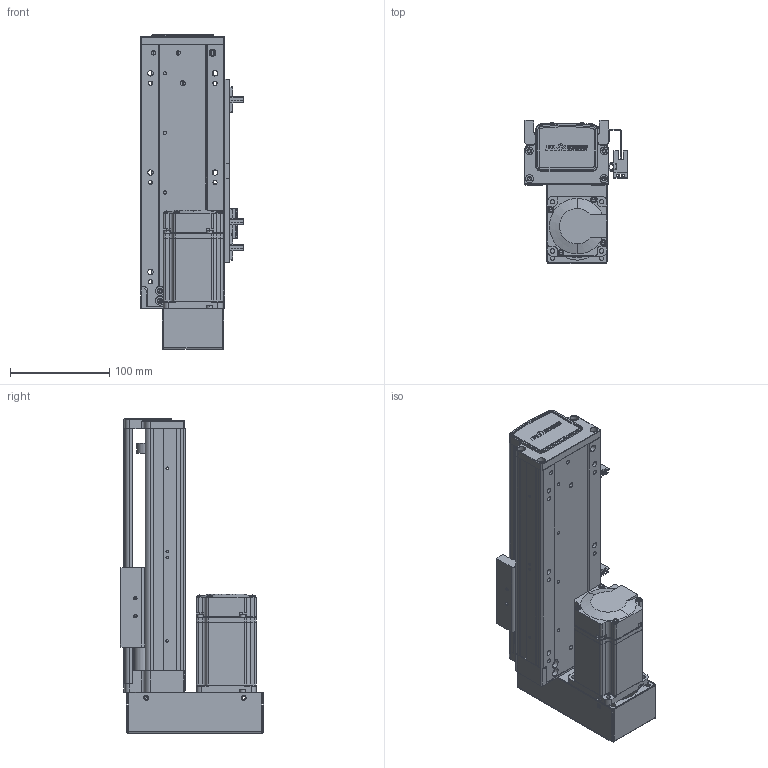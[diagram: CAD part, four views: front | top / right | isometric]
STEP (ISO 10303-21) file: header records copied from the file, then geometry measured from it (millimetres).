
FILE_DESCRIPTION (( 'STEP AP203' ), '1' );
FILE_NAME ('RY80-L1620-300-BK.SLDASM_100.step', '2021-02-20T07:10:16', ( '盈信电脑' ), ( '东莞市道滘镇水果街19号' ), 'SwSTEP 2.0', 'SolidWorks 2012', '' );
FILE_SCHEMA (( 'CONFIG_CONTROL_DESIGN' ));
Length unit declared in the file: millimetre
Products named in the file (15): 滅袉蝶18-24; RY80狟殏萇儂假蚾啣; RY80-L1620-300-BK.SLDASM_100; RY80狟殏俋欶; 1; RY80转接电机端支撑座; RY80俋离覜茼え; 侂狟200W萇儂; 覜茼ん672; T倰羞; 滅袉蝶18-10; RY80綴裔啣; RY80臏賑輸; RY80-300蛌諉倰第菁釱-BK_100; RY80-300蛌諉倰第奻裔啣-BK_100
Assembly tree (17 placements, depth 3):
  RY80-L1620-300-BK.SLDASM_100
    RY80-300蛌諉倰第菁釱-BK_100
    RY80臏賑輸
    RY80-300蛌諉倰第奻裔啣-BK_100
    RY80綴裔啣
    滅袉蝶18-10
    T倰羞  x2
    覜茼ん672  x3
    RY80俋离覜茼え
    RY80转接电机端支撑座
    侂狟200W萇儂
      1
    RY80狟殏萇儂假蚾啣
    RY80狟殏俋欶
    滅袉蝶18-24
Bounding box: 103.7 x 144 x 317 mm (x, y, z)
Volume: 969431.5 mm3; surface area: 339778.5 mm2
Topology: 16 solids, 16 shells, 2015 faces, 5521 edges, 3575 vertices
Faces by surface type: plane 1140, cylinder 682, cone 131, bspline 62
Entity records: 62685 total; most frequent: CARTESIAN_POINT 15290, ORIENTED_EDGE 9738, DIRECTION 9184, EDGE_CURVE 4869, VERTEX_POINT 3191, VECTOR 3138, LINE 3138, AXIS2_PLACEMENT_3D 3023
